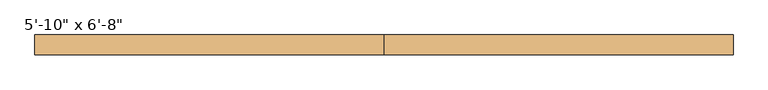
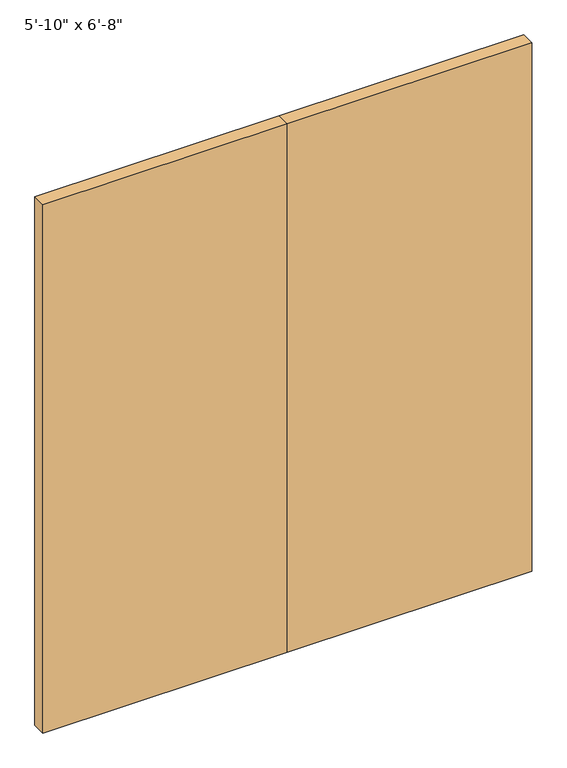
"""IFC4 building model written with IfcOpenShell, lengths in millimetres: door geometry."""

from ifc_helpers import new_model, si_unit, origin, origin_with_axes, place, context, project, spatial, polyline, outline, extrude, source, transform, mapped, element, save


def door_c5e53498(model_context):
    return source(origin(), model_context, "Body", "SweptSolid", [
        extrude(outline(polyline([(0.0, 82.55), (889.0, 82.55), (889.0, 32.55), (0.0, 32.55), (0.0, 82.55)])), origin_with_axes(), (0.0, 0.0, 1.0), 2032.0),
        extrude(outline(polyline([(-889.0, 82.55), (0.0, 82.55), (0.0, 32.55), (-889.0, 32.55), (-889.0, 82.55)])), origin_with_axes(), (0.0, 0.0, 1.0), 2032.0),
    ])


if __name__ == "__main__":
    model = new_model("IFC4")
    model_context = context("Model", 3, world=origin())
    ifc_project = project(units=[si_unit("LENGTHUNIT", "METRE", prefix="MILLI")], contexts=[model_context])
    site = spatial("IfcSite", under=ifc_project)
    building = spatial("IfcBuilding", under=site)
    placement = place(None, origin())
    door_shape = door_c5e53498(model_context)
    element("IfcDoor", 1, ObjectType="Planitar - Double Door_Flush Panel : 5'-10\" x 6'-8\"", at=placement, inside=building, context=model_context, shape_type="MappedRepresentation", body=[
        mapped(door_shape, transform((0.0, 0.0, 0.0), x_axis=(1.0, 0.0, 0.0), y_axis=(0.0, 1.0, 0.0), z_axis=(0.0, 0.0, 1.0))),
    ])
    save(model, "model.ifc")
